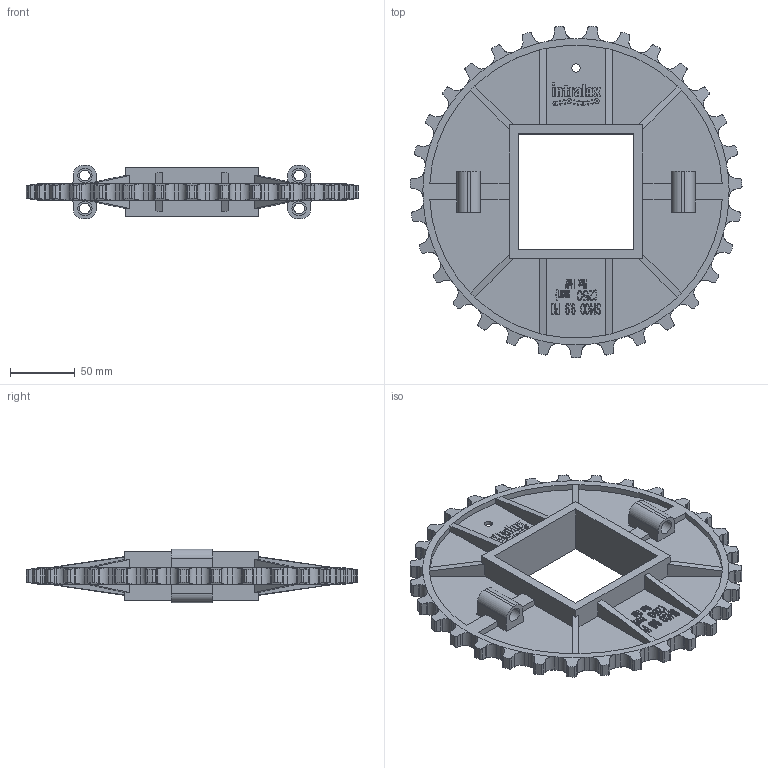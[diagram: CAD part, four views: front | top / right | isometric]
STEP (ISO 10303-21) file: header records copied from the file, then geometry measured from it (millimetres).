
FILE_DESCRIPTION((''),'2;1');
FILE_NAME('S1400_SPLIT_99X35_SQ','2008-12-12T',('jmumphre'),(''),'PRO/ENGINEER BY PARAMETRIC TECHNOLOGY CORPORATION, 2008150','PRO/ENGINEER BY PARAMETRIC TECHNOLOGY CORPORATION, 2008150','');
FILE_SCHEMA(('CONFIG_CONTROL_DESIGN'));
Products named in the file (1): S1400_SPLIT_99X35_SQ
Bounding box: 255.69 x 255.38 x 41.27 mm (x, y, z)
Volume: 347851 mm3; surface area: 149962.9 mm2
Topology: 1 solids, 1 shells, 2501 faces, 7017 edges, 4626 vertices
Faces by surface type: plane 1951, cylinder 472, cone 78
Entity records: 83081 total; most frequent: CARTESIAN_POINT 19012, ORIENTED_EDGE 14034, DIRECTION 12117, EDGE_CURVE 7017, VECTOR 5815, LINE 5815, VERTEX_POINT 4626, AXIS2_PLACEMENT_3D 3151
